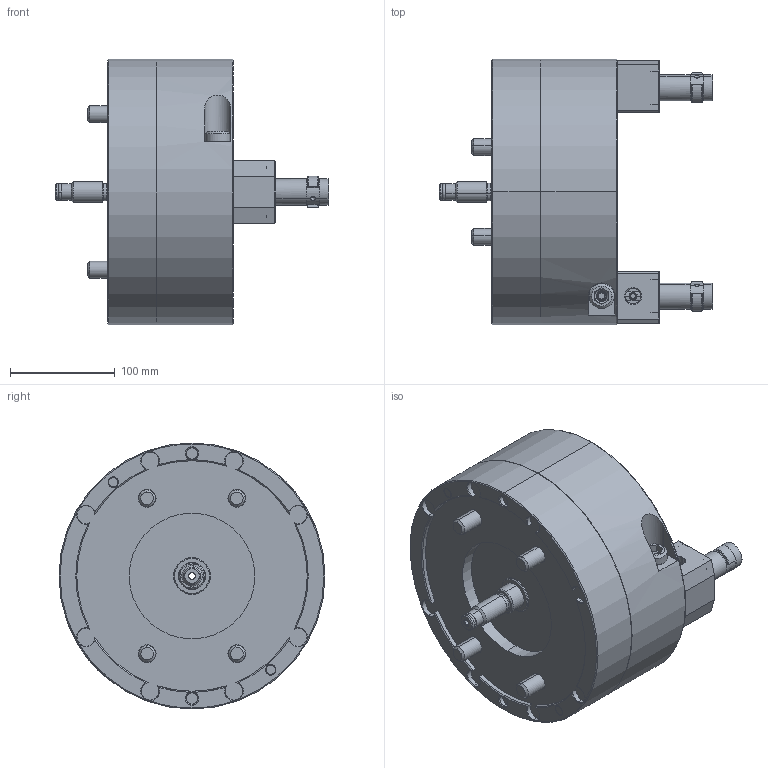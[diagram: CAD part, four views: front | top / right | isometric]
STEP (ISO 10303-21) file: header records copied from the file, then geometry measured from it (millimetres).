
FILE_DESCRIPTION (( 'STEP AP214' ), '1' );
FILE_NAME ('FGT10_UC.STEP', '2019-12-02T04:42:42', ( '' ), ( '' ), 'SwSTEP 2.0', 'SolidWorks 2017', '' );
FILE_SCHEMA (( 'AUTOMOTIVE_DESIGN' ));
Length unit declared in the file: millimetre
Products named in the file (2): 結合1; FGT10_UC
Assembly tree (1 placements, depth 2):
  FGT10_UC
    結合1
Bounding box: 261 x 254 x 254 mm (x, y, z)
Volume: 5979493.4 mm3; surface area: 306353.8 mm2
Topology: 3 solids, 17 shells, 1399 faces, 3401 edges, 2092 vertices
Faces by surface type: plane 586, cone 352, cylinder 305, torus 88, bspline 68
Entity records: 45421 total; most frequent: CARTESIAN_POINT 13021, ORIENTED_EDGE 6714, DIRECTION 6611, EDGE_CURVE 3357, AXIS2_PLACEMENT_3D 2508, VERTEX_POINT 2092, VECTOR 1595, LINE 1595
